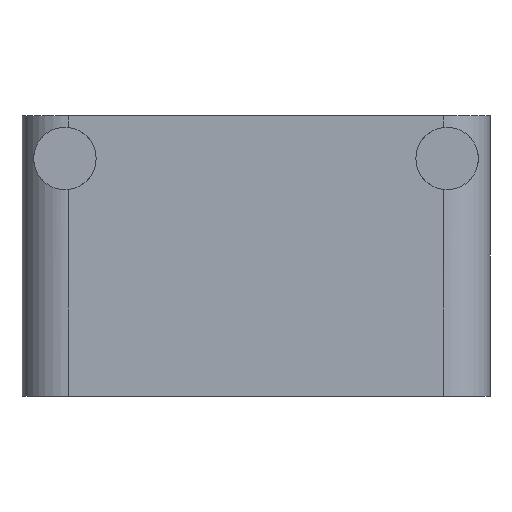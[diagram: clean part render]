
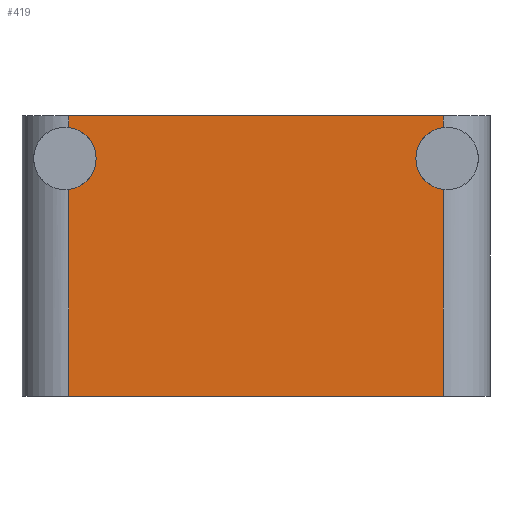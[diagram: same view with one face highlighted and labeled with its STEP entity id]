
A CAD part, front view. The second image highlights one B-rep face of the part: STEP entity #419.
In plain terms, the highlighted planar face has unit normal (0, -1, 0).
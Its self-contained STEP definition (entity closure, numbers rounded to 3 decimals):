
#33 = CYLINDRICAL_SURFACE('',#34,4.);
#34 = AXIS2_PLACEMENT_3D('',#35,#36,#37);
#35 = CARTESIAN_POINT('',(54.5,-2.,60.5));
#36 = DIRECTION('',(0.,1.,0.));
#37 = DIRECTION('',(0.,-0.,1.));
#79 = CYLINDRICAL_SURFACE('',#80,6.);
#80 = AXIS2_PLACEMENT_3D('',#81,#82,#83);
#81 = CARTESIAN_POINT('',(54.,6.,30.));
#82 = DIRECTION('',(-0.,-0.,-1.));
#83 = DIRECTION('',(0.,-1.,0.));
#146 = VERTEX_POINT('',#147);
#147 = CARTESIAN_POINT('',(54.,0.,64.469));
#183 = EDGE_CURVE('',#184,#146,#186,.T.);
#184 = VERTEX_POINT('',#185);
#185 = CARTESIAN_POINT('',(54.,0.,56.531));
#186 = SURFACE_CURVE('',#187,(#192,#199),.PCURVE_S1.);
#187 = CIRCLE('',#188,4.);
#188 = AXIS2_PLACEMENT_3D('',#189,#190,#191);
#189 = CARTESIAN_POINT('',(54.5,0.,60.5));
#190 = DIRECTION('',(0.,1.,0.));
#191 = DIRECTION('',(0.,-0.,1.));
#192 = PCURVE('',#33,#193);
#193 = DEFINITIONAL_REPRESENTATION('',(#194),#198);
#194 = LINE('',#195,#196);
#195 = CARTESIAN_POINT('',(0.,2.));
#196 = VECTOR('',#197,1.);
#197 = DIRECTION('',(1.,0.));
#198 = ( GEOMETRIC_REPRESENTATION_CONTEXT(2) 
PARAMETRIC_REPRESENTATION_CONTEXT() REPRESENTATION_CONTEXT('2D SPACE',''
  ) );
#199 = PCURVE('',#200,#205);
#200 = PLANE('',#201);
#201 = AXIS2_PLACEMENT_3D('',#202,#203,#204);
#202 = CARTESIAN_POINT('',(6.,0.,30.));
#203 = DIRECTION('',(0.,1.,0.));
#204 = DIRECTION('',(1.,0.,0.));
#205 = DEFINITIONAL_REPRESENTATION('',(#206),#210);
#206 = CIRCLE('',#207,4.);
#207 = AXIS2_PLACEMENT_2D('',#208,#209);
#208 = CARTESIAN_POINT('',(48.5,-30.5));
#209 = DIRECTION('',(0.,-1.));
#210 = ( GEOMETRIC_REPRESENTATION_CONTEXT(2) 
PARAMETRIC_REPRESENTATION_CONTEXT() REPRESENTATION_CONTEXT('2D SPACE',''
  ) );
#287 = VERTEX_POINT('',#288);
#288 = CARTESIAN_POINT('',(54.,0.,30.));
#305 = PLANE('',#306);
#306 = AXIS2_PLACEMENT_3D('',#307,#308,#309);
#307 = CARTESIAN_POINT('',(30.,46.,30.));
#308 = DIRECTION('',(0.,0.,1.));
#309 = DIRECTION('',(1.,0.,-0.));
#317 = EDGE_CURVE('',#287,#184,#318,.T.);
#318 = SURFACE_CURVE('',#319,(#323,#330),.PCURVE_S1.);
#319 = LINE('',#320,#321);
#320 = CARTESIAN_POINT('',(54.,0.,30.));
#321 = VECTOR('',#322,1.);
#322 = DIRECTION('',(0.,0.,1.));
#323 = PCURVE('',#79,#324);
#324 = DEFINITIONAL_REPRESENTATION('',(#325),#329);
#325 = LINE('',#326,#327);
#326 = CARTESIAN_POINT('',(-0.,0.));
#327 = VECTOR('',#328,1.);
#328 = DIRECTION('',(-0.,-1.));
#329 = ( GEOMETRIC_REPRESENTATION_CONTEXT(2) 
PARAMETRIC_REPRESENTATION_CONTEXT() REPRESENTATION_CONTEXT('2D SPACE',''
  ) );
#330 = PCURVE('',#200,#331);
#331 = DEFINITIONAL_REPRESENTATION('',(#332),#336);
#332 = LINE('',#333,#334);
#333 = CARTESIAN_POINT('',(48.,0.));
#334 = VECTOR('',#335,1.);
#335 = DIRECTION('',(0.,-1.));
#336 = ( GEOMETRIC_REPRESENTATION_CONTEXT(2) 
PARAMETRIC_REPRESENTATION_CONTEXT() REPRESENTATION_CONTEXT('2D SPACE',''
  ) );
#342 = EDGE_CURVE('',#146,#343,#345,.T.);
#343 = VERTEX_POINT('',#344);
#344 = CARTESIAN_POINT('',(54.,0.,66.));
#345 = SURFACE_CURVE('',#346,(#350,#357),.PCURVE_S1.);
#346 = LINE('',#347,#348);
#347 = CARTESIAN_POINT('',(54.,0.,30.));
#348 = VECTOR('',#349,1.);
#349 = DIRECTION('',(0.,0.,1.));
#350 = PCURVE('',#79,#351);
#351 = DEFINITIONAL_REPRESENTATION('',(#352),#356);
#352 = LINE('',#353,#354);
#353 = CARTESIAN_POINT('',(-0.,0.));
#354 = VECTOR('',#355,1.);
#355 = DIRECTION('',(-0.,-1.));
#356 = ( GEOMETRIC_REPRESENTATION_CONTEXT(2) 
PARAMETRIC_REPRESENTATION_CONTEXT() REPRESENTATION_CONTEXT('2D SPACE',''
  ) );
#357 = PCURVE('',#200,#358);
#358 = DEFINITIONAL_REPRESENTATION('',(#359),#363);
#359 = LINE('',#360,#361);
#360 = CARTESIAN_POINT('',(48.,0.));
#361 = VECTOR('',#362,1.);
#362 = DIRECTION('',(0.,-1.));
#363 = ( GEOMETRIC_REPRESENTATION_CONTEXT(2) 
PARAMETRIC_REPRESENTATION_CONTEXT() REPRESENTATION_CONTEXT('2D SPACE',''
  ) );
#382 = PLANE('',#383);
#383 = AXIS2_PLACEMENT_3D('',#384,#385,#386);
#384 = CARTESIAN_POINT('',(30.,46.,66.));
#385 = DIRECTION('',(0.,0.,1.));
#386 = DIRECTION('',(1.,0.,-0.));
#419 = ADVANCED_FACE('',(#420),#200,.F.);
#420 = FACE_BOUND('',#421,.F.);
#421 = EDGE_LOOP('',(#422,#445,#473,#502,#525,#546,#547,#548));
#422 = ORIENTED_EDGE('',*,*,#423,.F.);
#423 = EDGE_CURVE('',#424,#287,#426,.T.);
#424 = VERTEX_POINT('',#425);
#425 = CARTESIAN_POINT('',(6.,0.,30.));
#426 = SURFACE_CURVE('',#427,(#431,#438),.PCURVE_S1.);
#427 = LINE('',#428,#429);
#428 = CARTESIAN_POINT('',(6.,0.,30.));
#429 = VECTOR('',#430,1.);
#430 = DIRECTION('',(1.,0.,0.));
#431 = PCURVE('',#200,#432);
#432 = DEFINITIONAL_REPRESENTATION('',(#433),#437);
#433 = LINE('',#434,#435);
#434 = CARTESIAN_POINT('',(0.,0.));
#435 = VECTOR('',#436,1.);
#436 = DIRECTION('',(1.,0.));
#437 = ( GEOMETRIC_REPRESENTATION_CONTEXT(2) 
PARAMETRIC_REPRESENTATION_CONTEXT() REPRESENTATION_CONTEXT('2D SPACE',''
  ) );
#438 = PCURVE('',#305,#439);
#439 = DEFINITIONAL_REPRESENTATION('',(#440),#444);
#440 = LINE('',#441,#442);
#441 = CARTESIAN_POINT('',(-24.,-46.));
#442 = VECTOR('',#443,1.);
#443 = DIRECTION('',(1.,0.));
#444 = ( GEOMETRIC_REPRESENTATION_CONTEXT(2) 
PARAMETRIC_REPRESENTATION_CONTEXT() REPRESENTATION_CONTEXT('2D SPACE',''
  ) );
#445 = ORIENTED_EDGE('',*,*,#446,.T.);
#446 = EDGE_CURVE('',#424,#447,#449,.T.);
#447 = VERTEX_POINT('',#448);
#448 = CARTESIAN_POINT('',(6.,0.,56.531));
#449 = SURFACE_CURVE('',#450,(#454,#461),.PCURVE_S1.);
#450 = LINE('',#451,#452);
#451 = CARTESIAN_POINT('',(6.,0.,30.));
#452 = VECTOR('',#453,1.);
#453 = DIRECTION('',(0.,0.,1.));
#454 = PCURVE('',#200,#455);
#455 = DEFINITIONAL_REPRESENTATION('',(#456),#460);
#456 = LINE('',#457,#458);
#457 = CARTESIAN_POINT('',(0.,0.));
#458 = VECTOR('',#459,1.);
#459 = DIRECTION('',(0.,-1.));
#460 = ( GEOMETRIC_REPRESENTATION_CONTEXT(2) 
PARAMETRIC_REPRESENTATION_CONTEXT() REPRESENTATION_CONTEXT('2D SPACE',''
  ) );
#461 = PCURVE('',#462,#467);
#462 = CYLINDRICAL_SURFACE('',#463,6.);
#463 = AXIS2_PLACEMENT_3D('',#464,#465,#466);
#464 = CARTESIAN_POINT('',(6.,6.,30.));
#465 = DIRECTION('',(-0.,-0.,-1.));
#466 = DIRECTION('',(-1.,0.,0.));
#467 = DEFINITIONAL_REPRESENTATION('',(#468),#472);
#468 = LINE('',#469,#470);
#469 = CARTESIAN_POINT('',(-1.571,0.));
#470 = VECTOR('',#471,1.);
#471 = DIRECTION('',(-0.,-1.));
#472 = ( GEOMETRIC_REPRESENTATION_CONTEXT(2) 
PARAMETRIC_REPRESENTATION_CONTEXT() REPRESENTATION_CONTEXT('2D SPACE',''
  ) );
#473 = ORIENTED_EDGE('',*,*,#474,.F.);
#474 = EDGE_CURVE('',#475,#447,#477,.T.);
#475 = VERTEX_POINT('',#476);
#476 = CARTESIAN_POINT('',(6.,0.,64.469));
#477 = SURFACE_CURVE('',#478,(#483,#490),.PCURVE_S1.);
#478 = CIRCLE('',#479,4.);
#479 = AXIS2_PLACEMENT_3D('',#480,#481,#482);
#480 = CARTESIAN_POINT('',(5.5,0.,60.5));
#481 = DIRECTION('',(0.,1.,0.));
#482 = DIRECTION('',(0.,-0.,1.));
#483 = PCURVE('',#200,#484);
#484 = DEFINITIONAL_REPRESENTATION('',(#485),#489);
#485 = CIRCLE('',#486,4.);
#486 = AXIS2_PLACEMENT_2D('',#487,#488);
#487 = CARTESIAN_POINT('',(-0.5,-30.5));
#488 = DIRECTION('',(0.,-1.));
#489 = ( GEOMETRIC_REPRESENTATION_CONTEXT(2) 
PARAMETRIC_REPRESENTATION_CONTEXT() REPRESENTATION_CONTEXT('2D SPACE',''
  ) );
#490 = PCURVE('',#491,#496);
#491 = CYLINDRICAL_SURFACE('',#492,4.);
#492 = AXIS2_PLACEMENT_3D('',#493,#494,#495);
#493 = CARTESIAN_POINT('',(5.5,-2.,60.5));
#494 = DIRECTION('',(0.,1.,0.));
#495 = DIRECTION('',(0.,-0.,1.));
#496 = DEFINITIONAL_REPRESENTATION('',(#497),#501);
#497 = LINE('',#498,#499);
#498 = CARTESIAN_POINT('',(0.,2.));
#499 = VECTOR('',#500,1.);
#500 = DIRECTION('',(1.,0.));
#501 = ( GEOMETRIC_REPRESENTATION_CONTEXT(2) 
PARAMETRIC_REPRESENTATION_CONTEXT() REPRESENTATION_CONTEXT('2D SPACE',''
  ) );
#502 = ORIENTED_EDGE('',*,*,#503,.T.);
#503 = EDGE_CURVE('',#475,#504,#506,.T.);
#504 = VERTEX_POINT('',#505);
#505 = CARTESIAN_POINT('',(6.,0.,66.));
#506 = SURFACE_CURVE('',#507,(#511,#518),.PCURVE_S1.);
#507 = LINE('',#508,#509);
#508 = CARTESIAN_POINT('',(6.,0.,30.));
#509 = VECTOR('',#510,1.);
#510 = DIRECTION('',(0.,0.,1.));
#511 = PCURVE('',#200,#512);
#512 = DEFINITIONAL_REPRESENTATION('',(#513),#517);
#513 = LINE('',#514,#515);
#514 = CARTESIAN_POINT('',(0.,0.));
#515 = VECTOR('',#516,1.);
#516 = DIRECTION('',(0.,-1.));
#517 = ( GEOMETRIC_REPRESENTATION_CONTEXT(2) 
PARAMETRIC_REPRESENTATION_CONTEXT() REPRESENTATION_CONTEXT('2D SPACE',''
  ) );
#518 = PCURVE('',#462,#519);
#519 = DEFINITIONAL_REPRESENTATION('',(#520),#524);
#520 = LINE('',#521,#522);
#521 = CARTESIAN_POINT('',(-1.571,0.));
#522 = VECTOR('',#523,1.);
#523 = DIRECTION('',(-0.,-1.));
#524 = ( GEOMETRIC_REPRESENTATION_CONTEXT(2) 
PARAMETRIC_REPRESENTATION_CONTEXT() REPRESENTATION_CONTEXT('2D SPACE',''
  ) );
#525 = ORIENTED_EDGE('',*,*,#526,.T.);
#526 = EDGE_CURVE('',#504,#343,#527,.T.);
#527 = SURFACE_CURVE('',#528,(#532,#539),.PCURVE_S1.);
#528 = LINE('',#529,#530);
#529 = CARTESIAN_POINT('',(6.,0.,66.));
#530 = VECTOR('',#531,1.);
#531 = DIRECTION('',(1.,0.,0.));
#532 = PCURVE('',#200,#533);
#533 = DEFINITIONAL_REPRESENTATION('',(#534),#538);
#534 = LINE('',#535,#536);
#535 = CARTESIAN_POINT('',(0.,-36.));
#536 = VECTOR('',#537,1.);
#537 = DIRECTION('',(1.,0.));
#538 = ( GEOMETRIC_REPRESENTATION_CONTEXT(2) 
PARAMETRIC_REPRESENTATION_CONTEXT() REPRESENTATION_CONTEXT('2D SPACE',''
  ) );
#539 = PCURVE('',#382,#540);
#540 = DEFINITIONAL_REPRESENTATION('',(#541),#545);
#541 = LINE('',#542,#543);
#542 = CARTESIAN_POINT('',(-24.,-46.));
#543 = VECTOR('',#544,1.);
#544 = DIRECTION('',(1.,0.));
#545 = ( GEOMETRIC_REPRESENTATION_CONTEXT(2) 
PARAMETRIC_REPRESENTATION_CONTEXT() REPRESENTATION_CONTEXT('2D SPACE',''
  ) );
#546 = ORIENTED_EDGE('',*,*,#342,.F.);
#547 = ORIENTED_EDGE('',*,*,#183,.F.);
#548 = ORIENTED_EDGE('',*,*,#317,.F.);
